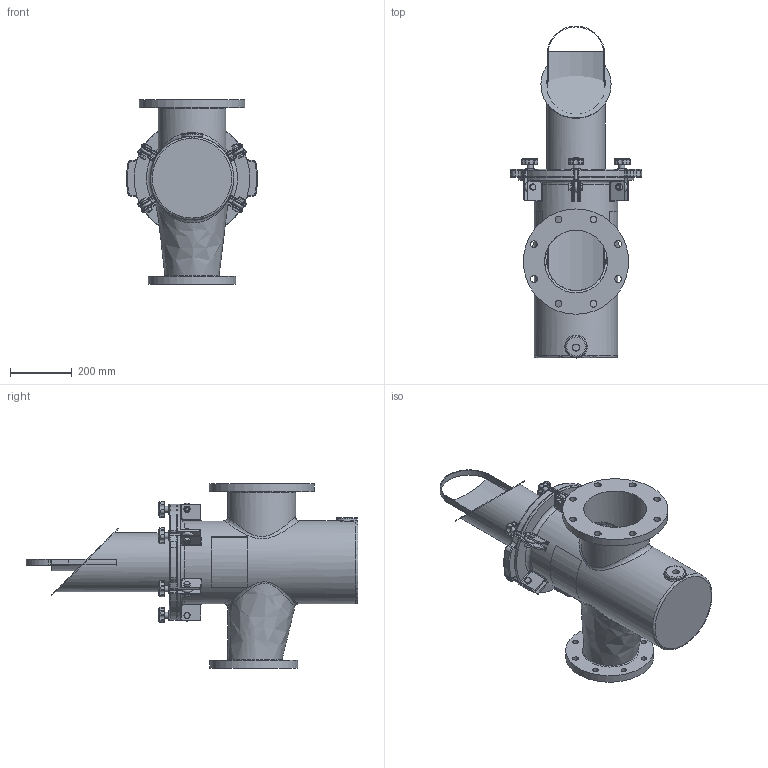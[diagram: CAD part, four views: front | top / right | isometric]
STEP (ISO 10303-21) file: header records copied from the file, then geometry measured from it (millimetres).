
FILE_DESCRIPTION(/* description */ ('200MM X 150MM FIBERGLASS STRAINER BODY'),/* implementation_level */ '2;1');
FILE_NAME(/* name */ 'C:\Users\r.kommineni.ext\Desktop\NB\CAD\Workspace\FG Reducing Strainer\Guardian FG Reducing H&L Strainer (Metric)_CLEARANCE VOLUME\STRAINER H&L 200MM X 150MM.stp',/* time_stamp */ '2017-06-09T13:33:55-04:00',/* author */ ('r.kommineni.ext'),/* organization */ (''),/* preprocessor_version */ 'ST-DEVELOPER v16.1',/* originating_system */ 'Autodesk Inventor 2016',/* authorisation */ '');
FILE_SCHEMA (('CONFIG_CONTROL_DESIGN'));
Length unit declared in the file: inch
Products named in the file (19): NBFGBODY08X06MM; 150NBCVR48R1; 150NBGSK48R1; Perforated Basket 10in; Bride (Ring) 10in; Baffle 10in; Handle 10in; Bottom Strainer 10in; Nut- 1_2  UNC; Bolt-1_2 x 1 1_2  UNC; EyeBolt; Washer; Knob M10; Securing Assembly For FG without Brace; Label for 10.625 inch (Right); Label for 10.625 inch (Left); NBBSK08T316_clearance; NBBSK08T316_clearance_1; STRAINER H&L 200MM X 150MM
Assembly tree (23 placements, depth 3):
  STRAINER H&L 200MM X 150MM
    NBFGBODY08X06MM
    150NBCVR48R1
    150NBGSK48R1
    NBBSK08T316_clearance_1
      Perforated Basket 10in
      Bride (Ring) 10in
      Baffle 10in
      Handle 10in
      Bottom Strainer 10in
      NBBSK08T316_clearance
    Securing Assembly For FG without Brace  x6
      Nut- 1_2  UNC
      Bolt-1_2 x 1 1_2  UNC
      EyeBolt
      Washer
      Knob M10
    Label for 10.625 inch (Right)
    Label for 10.625 inch (Left)
Bounding box: 424.18 x 1073.15 x 596.9 mm (x, y, z)
Volume: 12375161.7 mm3; surface area: 3297693.5 mm2
Topology: 40 solids, 45 shells, 1297 faces, 2992 edges, 1776 vertices
Faces by surface type: cylinder 476, plane 344, cone 138, torus 124, bspline 113, sphere 102
Full cylindrical faces by diameter (mm): 3.175 x10, 6.35 x2, 8.382 x6, 9.525 x12, 10.592 x6, 12.7 x6, 15.875 x12, 17.78 x8, 19 x12, 19.05 x6, 22.098 x8, 22.809 x1, 31.75 x6, 68.263 x1, 187.325 x2, 190.5 x2, 193.04 x1, 203.2 x1, 219.075 x1, 254 x2, 266.7 x1, 269.875 x1, 276.225 x1, 284.48 x1, 311.15 x1, 317.5 x1, 340.36 x1
Entity records: 27772 total; most frequent: CARTESIAN_POINT 11112, DIRECTION 3451, ORIENTED_EDGE 3100, EDGE_CURVE 1576, AXIS2_PLACEMENT_3D 1445, VERTEX_POINT 1003, EDGE_LOOP 885, CIRCLE 726
